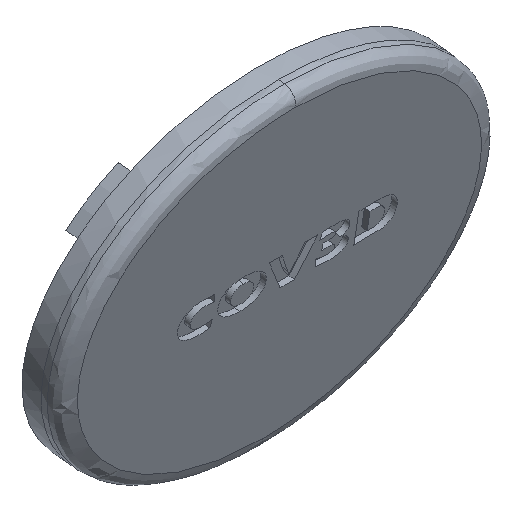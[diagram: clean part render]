
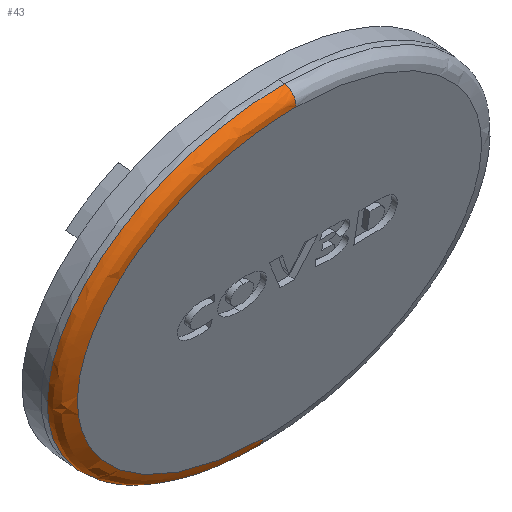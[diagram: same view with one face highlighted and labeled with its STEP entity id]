
A CAD part, isometric view. The second image highlights one B-rep face of the part: STEP entity #43.
In plain terms, the highlighted free-form (B-spline) face has degree [2, 2] with [3, 5] control points.
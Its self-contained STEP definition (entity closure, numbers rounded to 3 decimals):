
#43=ADVANCED_FACE('',(#110),#1043,.T.);
#110=FACE_OUTER_BOUND('',#186,.T.);
#186=EDGE_LOOP('',(#321,#322,#323,#324));
#321=ORIENTED_EDGE('',*,*,#577,.F.);
#322=ORIENTED_EDGE('',*,*,#578,.T.);
#323=ORIENTED_EDGE('',*,*,#579,.T.);
#324=ORIENTED_EDGE('',*,*,#713,.F.);
#577=EDGE_CURVE('',#888,#977,#727,.T.);
#578=EDGE_CURVE('',#888,#889,#728,.T.);
#579=EDGE_CURVE('',#889,#978,#729,.T.);
#713=EDGE_CURVE('',#977,#978,#746,.T.);
#727=(
BOUNDED_CURVE()
B_SPLINE_CURVE(2,(#2068,#2069,#2070,#2071,#2072),.UNSPECIFIED.,.F.,.F.)
B_SPLINE_CURVE_WITH_KNOTS((3,2,3),(0.,43.396,86.792),
 .UNSPECIFIED.)
CURVE()
GEOMETRIC_REPRESENTATION_ITEM()
RATIONAL_B_SPLINE_CURVE((1.,0.707,1.,0.707,1.))
REPRESENTATION_ITEM('')
);
#728=(
BOUNDED_CURVE()
B_SPLINE_CURVE(2,(#2073,#2074,#2075),.UNSPECIFIED.,.F.,.F.)
B_SPLINE_CURVE_WITH_KNOTS((3,3),(0.,3.727),.UNSPECIFIED.)
CURVE()
GEOMETRIC_REPRESENTATION_ITEM()
RATIONAL_B_SPLINE_CURVE((1.,0.707,1.))
REPRESENTATION_ITEM('')
);
#729=(
BOUNDED_CURVE()
B_SPLINE_CURVE(2,(#2076,#2077,#2078,#2079,#2080),.UNSPECIFIED.,.F.,.F.)
B_SPLINE_CURVE_WITH_KNOTS((3,2,3),(0.,43.396,86.792),
 .UNSPECIFIED.)
CURVE()
GEOMETRIC_REPRESENTATION_ITEM()
RATIONAL_B_SPLINE_CURVE((1.,0.707,1.,0.707,1.))
REPRESENTATION_ITEM('')
);
#746=(
BOUNDED_CURVE()
B_SPLINE_CURVE(2,(#2816,#2817,#2818),.UNSPECIFIED.,.F.,.F.)
B_SPLINE_CURVE_WITH_KNOTS((3,3),(0.,3.727),.UNSPECIFIED.)
CURVE()
GEOMETRIC_REPRESENTATION_ITEM()
RATIONAL_B_SPLINE_CURVE((1.,0.707,1.))
REPRESENTATION_ITEM('')
);
#888=VERTEX_POINT('',#1920);
#889=VERTEX_POINT('',#1921);
#977=VERTEX_POINT('',#2009);
#978=VERTEX_POINT('',#2010);
#1043=(
BOUNDED_SURFACE()
B_SPLINE_SURFACE(2,2,((#1190,#1191,#1192,#1193,#1194),(#1195,#1196,#1197,
#1198,#1199),(#1200,#1201,#1202,#1203,#1204)),.UNSPECIFIED.,.F.,.F.,.F.)
B_SPLINE_SURFACE_WITH_KNOTS((3,3),(3,2,3),(0.,3.727),(0.,43.396,
86.792),.UNSPECIFIED.)
GEOMETRIC_REPRESENTATION_ITEM()
RATIONAL_B_SPLINE_SURFACE(((1.,0.707,1.,0.707,1.),
(0.707,0.5,0.707,0.5,
0.707),(1.,0.707,1.,0.707,1.)))
REPRESENTATION_ITEM('')
SURFACE()
);
#1190=CARTESIAN_POINT('',(-0.114,-104.051,-22.438));
#1191=CARTESIAN_POINT('',(-39.932,-104.003,-22.433));
#1192=CARTESIAN_POINT('',(-39.932,-107.239,7.574));
#1193=CARTESIAN_POINT('',(-39.932,-110.474,37.581));
#1194=CARTESIAN_POINT('',(-0.114,-110.522,37.576));
#1195=CARTESIAN_POINT('',(-0.116,-106.411,-22.692));
#1196=CARTESIAN_POINT('',(-39.935,-106.363,-22.687));
#1197=CARTESIAN_POINT('',(-39.935,-109.598,7.32));
#1198=CARTESIAN_POINT('',(-39.935,-112.833,37.327));
#1199=CARTESIAN_POINT('',(-0.116,-112.881,37.321));
#1200=CARTESIAN_POINT('',(-0.116,-106.667,-20.319));
#1201=CARTESIAN_POINT('',(-36.786,-106.622,-20.314));
#1202=CARTESIAN_POINT('',(-36.786,-109.602,7.319));
#1203=CARTESIAN_POINT('',(-36.786,-112.581,34.953));
#1204=CARTESIAN_POINT('',(-0.116,-112.625,34.948));
#1920=CARTESIAN_POINT('',(-0.114,-104.051,-22.438));
#1921=CARTESIAN_POINT('',(-0.116,-106.667,-20.319));
#2009=CARTESIAN_POINT('',(-0.114,-110.522,37.576));
#2010=CARTESIAN_POINT('',(-0.116,-112.625,34.948));
#2068=CARTESIAN_POINT('',(-0.114,-104.051,-22.438));
#2069=CARTESIAN_POINT('',(-39.932,-104.003,-22.433));
#2070=CARTESIAN_POINT('',(-39.932,-107.239,7.574));
#2071=CARTESIAN_POINT('',(-39.932,-110.474,37.581));
#2072=CARTESIAN_POINT('',(-0.114,-110.522,37.576));
#2073=CARTESIAN_POINT('',(-0.114,-104.051,-22.438));
#2074=CARTESIAN_POINT('',(-0.116,-106.411,-22.692));
#2075=CARTESIAN_POINT('',(-0.116,-106.667,-20.319));
#2076=CARTESIAN_POINT('',(-0.116,-106.667,-20.319));
#2077=CARTESIAN_POINT('',(-36.786,-106.622,-20.314));
#2078=CARTESIAN_POINT('',(-36.786,-109.602,7.319));
#2079=CARTESIAN_POINT('',(-36.786,-112.581,34.953));
#2080=CARTESIAN_POINT('',(-0.116,-112.625,34.948));
#2816=CARTESIAN_POINT('',(-0.114,-110.522,37.576));
#2817=CARTESIAN_POINT('',(-0.116,-112.881,37.321));
#2818=CARTESIAN_POINT('',(-0.116,-112.625,34.948));
